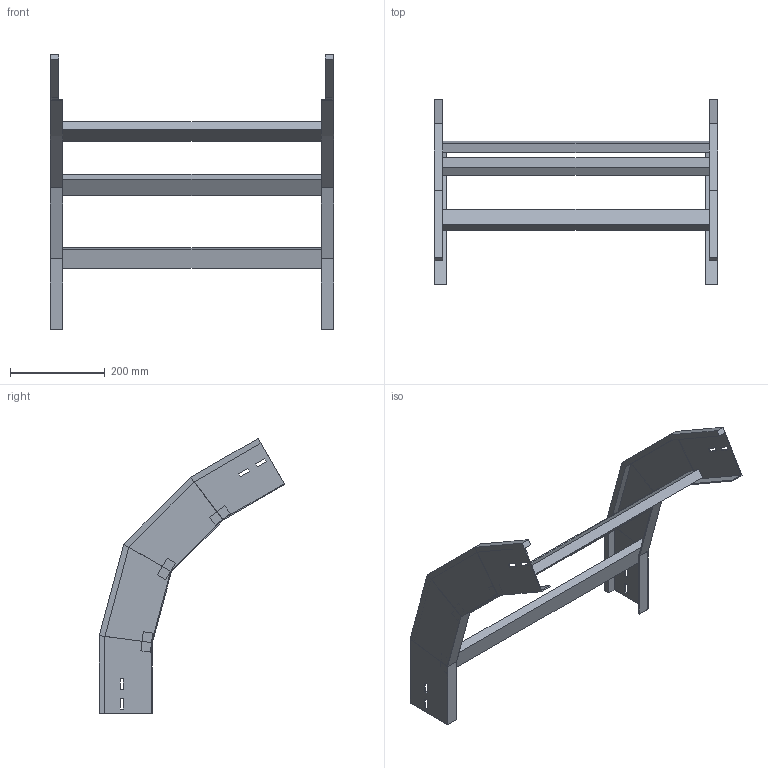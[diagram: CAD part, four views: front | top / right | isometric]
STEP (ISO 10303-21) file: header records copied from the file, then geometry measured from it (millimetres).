
FILE_DESCRIPTION (( 'STEP AP214' ), '1' );
FILE_NAME ('A2_41B3J600.step', '2025-02-21T14:58:27', ( '' ), ( '' ), 'SwSTEP 2.0', 'SolidWorks 2023', '' );
FILE_SCHEMA (( 'AUTOMOTIVE_DESIGN' ));
Length unit declared in the file: millimetre
Products named in the file (3): A2_41B3J600; TRAVERSINO_600; LONGH.DISCESA_60°_H112.5_R300
Assembly tree (5 placements, depth 2):
  A2_41B3J600
    LONGH.DISCESA_60°_H112.5_R300  x2
    TRAVERSINO_600  x3
Bounding box: 600 x 392.12 x 581.75 mm (x, y, z)
Volume: 2086009.3 mm3; surface area: 635681.2 mm2
Topology: 5 solids, 5 shells, 118 faces, 276 edges, 168 vertices
Faces by surface type: plane 118
Entity records: 1672 total; most frequent: CARTESIAN_POINT 276, ORIENTED_EDGE 264, DIRECTION 260, EDGE_CURVE 132, VECTOR 132, LINE 132, VERTEX_POINT 80, AXIS2_PLACEMENT_3D 64
